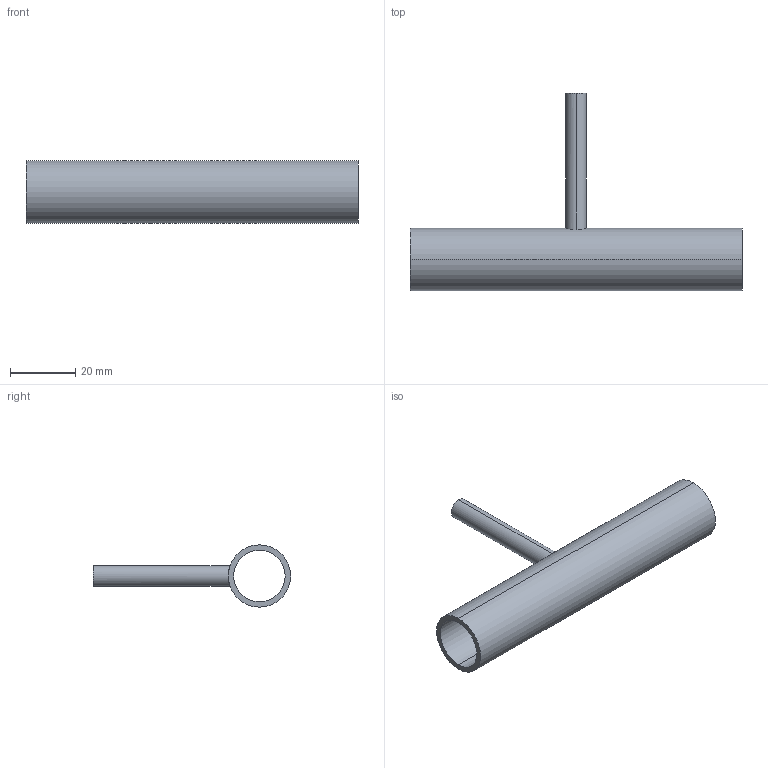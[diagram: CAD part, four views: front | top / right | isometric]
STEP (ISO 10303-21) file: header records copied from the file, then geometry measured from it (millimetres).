
FILE_DESCRIPTION (( 'STEP AP214' ), '1' );
FILE_NAME ('TE7RWWW6L.75x.25-...STEP', '2016-05-24T04:02:23', ( 'eran' ), ( '' ), 'SwSTEP 2.0', 'SolidWorks 2016', '' );
FILE_SCHEMA (( 'AUTOMOTIVE_DESIGN' ));
Length unit declared in the file: millimetre
Products named in the file (1): TE7RWWW6L.75x.25-..
Bounding box: 101.6 x 60.33 x 19.05 mm (x, y, z)
Volume: 9769.8 mm3; surface area: 12702.1 mm2
Topology: 1 solids, 1 shells, 11 faces, 24 edges, 16 vertices
Faces by surface type: cylinder 8, plane 3
Entity records: 464 total; most frequent: CARTESIAN_POINT 172, DIRECTION 56, ORIENTED_EDGE 48, EDGE_CURVE 24, AXIS2_PLACEMENT_3D 24, EDGE_LOOP 16, VERTEX_POINT 16, CIRCLE 12
